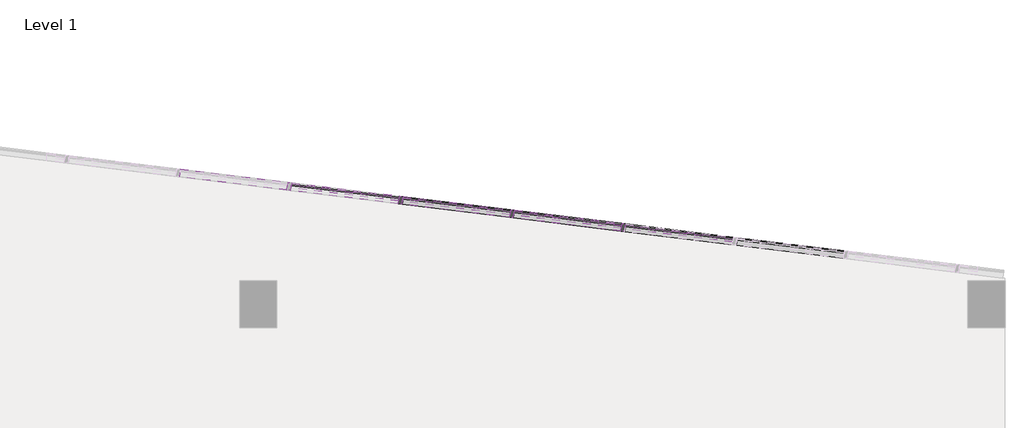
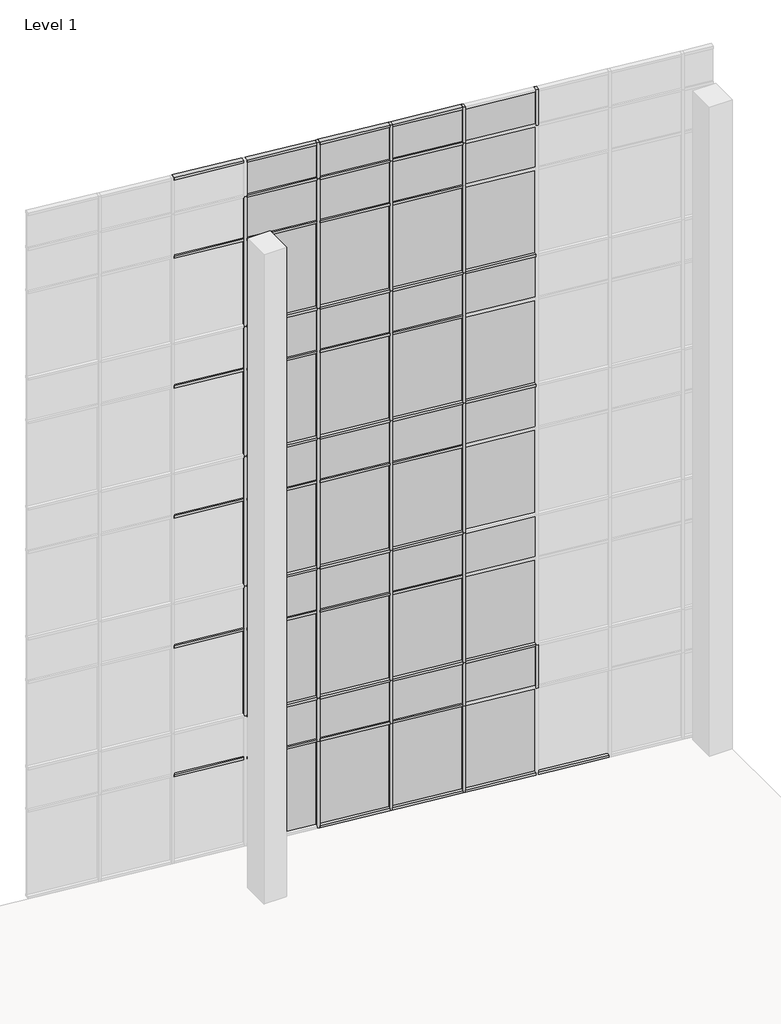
# One storey, part 21 of 23: 73 members, 44 plates.
"""IFC4 building model written with IfcOpenShell, lengths in millimetres."""

from ifc_helpers import new_model, si_unit, origin, place, context, project, spatial, transform, mapped, element, save
from components import member_2b49869a, member_f92b8aa2, member_810865a4, member_f0fea5a5, member_6d5c3e5e, member_9764dd38, system_panel_glazed_14c75400, system_panel_solid_5dfe6f83, system_panel_solid_e25e2004, system_panel_solid_b7551183

model = new_model("IFC4")

# Units and contexts
model_context = context("Model", 3, world=origin())
ifc_project = project(units=[si_unit("LENGTHUNIT", "METRE", prefix="MILLI")], contexts=[model_context])

# Site, building, storey
site = spatial("IfcSite", under=ifc_project)
building = spatial("IfcBuilding", under=site)
storey = spatial("IfcBuildingStorey", under=building, Name="Level 1", Elevation=0.0)

# Members
placement = place(None, origin())
member_shape = member_2b49869a(model_context)
element("IfcMember", 1, ObjectType="Rectangular Mullion : 2.5\" x 5\" rectangular", at=placement, inside=storey, context=model_context, shape_type="MappedRepresentation", body=[
    mapped(member_shape, transform((10636.016062, 10565.4226148, 2438.4), x_axis=(0.9925461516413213, -0.12186934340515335, 0.0), y_axis=(-0.12186934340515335, -0.9925461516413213, 0.0), z_axis=(0.0, 0.0, -1.0))),
])
element("IfcMember", 2, ObjectType="Rectangular Mullion : 2.5\" x 5\" rectangular", at=placement, inside=storey, context=model_context, shape_type="MappedRepresentation", body=[
    mapped(member_shape, transform((8820.8476599, 10788.29727, 2438.4), x_axis=(0.9925461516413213, -0.12186934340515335, 0.0), y_axis=(-0.12186934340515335, -0.9925461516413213, 0.0), z_axis=(0.0, 0.0, -1.0))),
])
element("IfcMember", 3, ObjectType="Rectangular Mullion : 2.5\" x 5\" rectangular", at=placement, inside=storey, context=model_context, shape_type="MappedRepresentation", body=[
    mapped(member_shape, transform((7005.6792577, 11011.1719252, 2438.4), x_axis=(0.9925461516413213, -0.12186934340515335, 0.0), y_axis=(-0.12186934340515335, -0.9925461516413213, 0.0), z_axis=(0.0, 0.0, -1.0))),
])
element("IfcMember", 4, ObjectType="Rectangular Mullion : 2.5\" x 5\" rectangular", at=placement, inside=storey, context=model_context, shape_type="MappedRepresentation", body=[
    mapped(member_shape, transform((5190.5108556, 11234.0465804, 2438.4), x_axis=(0.9925461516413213, -0.12186934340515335, 0.0), y_axis=(-0.12186934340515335, -0.9925461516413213, 0.0), z_axis=(0.0, 0.0, -1.0))),
])
member_2_shape = member_f92b8aa2(model_context)
element("IfcMember", 5, ObjectType="Rectangular Mullion : 2.5\" x 5\" rectangular", at=placement, inside=storey, context=model_context, shape_type="MappedRepresentation", body=[
    mapped(member_2_shape, transform((10636.016062, 10565.4226148, 18288.0), x_axis=(0.9925461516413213, -0.12186934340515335, 0.0), y_axis=(-0.12186934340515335, -0.9925461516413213, 0.0), z_axis=(0.0, 0.0, -1.0))),
])
element("IfcMember", 6, ObjectType="Rectangular Mullion : 2.5\" x 5\" rectangular", at=placement, inside=storey, context=model_context, shape_type="MappedRepresentation", body=[
    mapped(member_2_shape, transform((8820.8476599, 10788.29727, 18288.0), x_axis=(0.9925461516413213, -0.12186934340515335, 0.0), y_axis=(-0.12186934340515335, -0.9925461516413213, 0.0), z_axis=(0.0, 0.0, -1.0))),
])
element("IfcMember", 7, ObjectType="Rectangular Mullion : 2.5\" x 5\" rectangular", at=placement, inside=storey, context=model_context, shape_type="MappedRepresentation", body=[
    mapped(member_2_shape, transform((7005.6792577, 11011.1719252, 18288.0), x_axis=(0.9925461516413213, -0.12186934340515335, 0.0), y_axis=(-0.12186934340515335, -0.9925461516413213, 0.0), z_axis=(0.0, 0.0, -1.0))),
])
element("IfcMember", 8, ObjectType="Rectangular Mullion : 2.5\" x 5\" rectangular", at=placement, inside=storey, context=model_context, shape_type="MappedRepresentation", body=[
    mapped(member_2_shape, transform((5190.5108556, 11234.0465804, 18288.0), x_axis=(0.9925461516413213, -0.12186934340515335, 0.0), y_axis=(-0.12186934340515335, -0.9925461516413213, 0.0), z_axis=(0.0, 0.0, -1.0))),
])
member_3_shape = member_810865a4(model_context)
element("IfcMember", 9, ObjectType="Rectangular Mullion : 2.5\" x 5\" rectangular", at=placement, inside=storey, context=model_context, shape_type="MappedRepresentation", body=[
    mapped(member_3_shape, transform((8820.8476599, 10788.29727, 14630.4), x_axis=(0.9925461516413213, -0.12186934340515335, 0.0), y_axis=(-0.12186934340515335, -0.9925461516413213, 0.0), z_axis=(0.0, 0.0, -1.0))),
])
element("IfcMember", 10, ObjectType="Rectangular Mullion : 2.5\" x 5\" rectangular", at=placement, inside=storey, context=model_context, shape_type="MappedRepresentation", body=[
    mapped(member_3_shape, transform((8820.8476599, 10788.29727, 10972.8), x_axis=(0.9925461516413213, -0.12186934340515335, 0.0), y_axis=(-0.12186934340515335, -0.9925461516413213, 0.0), z_axis=(0.0, 0.0, -1.0))),
])
element("IfcMember", 11, ObjectType="Rectangular Mullion : 2.5\" x 5\" rectangular", at=placement, inside=storey, context=model_context, shape_type="MappedRepresentation", body=[
    mapped(member_3_shape, transform((8820.8476599, 10788.29727, 7315.2), x_axis=(0.9925461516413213, -0.12186934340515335, 0.0), y_axis=(-0.12186934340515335, -0.9925461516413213, 0.0), z_axis=(0.0, 0.0, -1.0))),
])
element("IfcMember", 12, ObjectType="Rectangular Mullion : 2.5\" x 5\" rectangular", at=placement, inside=storey, context=model_context, shape_type="MappedRepresentation", body=[
    mapped(member_3_shape, transform((8820.8476599, 10788.29727, 3657.6), x_axis=(0.9925461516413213, -0.12186934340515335, 0.0), y_axis=(-0.12186934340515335, -0.9925461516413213, 0.0), z_axis=(0.0, 0.0, -1.0))),
])
element("IfcMember", 13, ObjectType="Rectangular Mullion : 2.5\" x 5\" rectangular", at=placement, inside=storey, context=model_context, shape_type="MappedRepresentation", body=[
    mapped(member_3_shape, transform((7005.6792577, 11011.1719252, 14630.4), x_axis=(0.9925461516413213, -0.12186934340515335, 0.0), y_axis=(-0.12186934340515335, -0.9925461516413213, 0.0), z_axis=(0.0, 0.0, -1.0))),
])
element("IfcMember", 14, ObjectType="Rectangular Mullion : 2.5\" x 5\" rectangular", at=placement, inside=storey, context=model_context, shape_type="MappedRepresentation", body=[
    mapped(member_3_shape, transform((7005.6792577, 11011.1719252, 10972.8), x_axis=(0.9925461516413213, -0.12186934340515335, 0.0), y_axis=(-0.12186934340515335, -0.9925461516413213, 0.0), z_axis=(0.0, 0.0, -1.0))),
])
element("IfcMember", 15, ObjectType="Rectangular Mullion : 2.5\" x 5\" rectangular", at=placement, inside=storey, context=model_context, shape_type="MappedRepresentation", body=[
    mapped(member_3_shape, transform((7005.6792577, 11011.1719252, 7315.2), x_axis=(0.9925461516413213, -0.12186934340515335, 0.0), y_axis=(-0.12186934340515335, -0.9925461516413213, 0.0), z_axis=(0.0, 0.0, -1.0))),
])
element("IfcMember", 16, ObjectType="Rectangular Mullion : 2.5\" x 5\" rectangular", at=placement, inside=storey, context=model_context, shape_type="MappedRepresentation", body=[
    mapped(member_3_shape, transform((7005.6792577, 11011.1719252, 3657.6), x_axis=(0.9925461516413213, -0.12186934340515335, 0.0), y_axis=(-0.12186934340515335, -0.9925461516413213, 0.0), z_axis=(0.0, 0.0, -1.0))),
])
element("IfcMember", 17, ObjectType="Rectangular Mullion : 2.5\" x 5\" rectangular", at=placement, inside=storey, context=model_context, shape_type="MappedRepresentation", body=[
    mapped(member_3_shape, transform((5190.5108556, 11234.0465804, 14630.4), x_axis=(0.9925461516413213, -0.12186934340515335, 0.0), y_axis=(-0.12186934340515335, -0.9925461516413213, 0.0), z_axis=(0.0, 0.0, -1.0))),
])
element("IfcMember", 18, ObjectType="Rectangular Mullion : 2.5\" x 5\" rectangular", at=placement, inside=storey, context=model_context, shape_type="MappedRepresentation", body=[
    mapped(member_3_shape, transform((5190.5108556, 11234.0465804, 10972.8), x_axis=(0.9925461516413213, -0.12186934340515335, 0.0), y_axis=(-0.12186934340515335, -0.9925461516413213, 0.0), z_axis=(0.0, 0.0, -1.0))),
])
element("IfcMember", 19, ObjectType="Rectangular Mullion : 2.5\" x 5\" rectangular", at=placement, inside=storey, context=model_context, shape_type="MappedRepresentation", body=[
    mapped(member_3_shape, transform((5190.5108556, 11234.0465804, 7315.2), x_axis=(0.9925461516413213, -0.12186934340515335, 0.0), y_axis=(-0.12186934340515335, -0.9925461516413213, 0.0), z_axis=(0.0, 0.0, -1.0))),
])
element("IfcMember", 20, ObjectType="Rectangular Mullion : 2.5\" x 5\" rectangular", at=placement, inside=storey, context=model_context, shape_type="MappedRepresentation", body=[
    mapped(member_3_shape, transform((5190.5108556, 11234.0465804, 3657.6), x_axis=(0.9925461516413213, -0.12186934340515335, 0.0), y_axis=(-0.12186934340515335, -0.9925461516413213, 0.0), z_axis=(0.0, 0.0, -1.0))),
])
element("IfcMember", 21, ObjectType="Rectangular Mullion : 2.5\" x 5\" rectangular", at=placement, inside=storey, context=model_context, shape_type="MappedRepresentation", body=[
    mapped(member_3_shape, transform((3375.3424535, 11456.9212356, 14630.4), x_axis=(0.9925461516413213, -0.12186934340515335, 0.0), y_axis=(-0.12186934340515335, -0.9925461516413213, 0.0), z_axis=(0.0, 0.0, -1.0))),
])
element("IfcMember", 22, ObjectType="Rectangular Mullion : 2.5\" x 5\" rectangular", at=placement, inside=storey, context=model_context, shape_type="MappedRepresentation", body=[
    mapped(member_3_shape, transform((3375.3424535, 11456.9212356, 10972.8), x_axis=(0.9925461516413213, -0.12186934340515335, 0.0), y_axis=(-0.12186934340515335, -0.9925461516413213, 0.0), z_axis=(0.0, 0.0, -1.0))),
])
element("IfcMember", 23, ObjectType="Rectangular Mullion : 2.5\" x 5\" rectangular", at=placement, inside=storey, context=model_context, shape_type="MappedRepresentation", body=[
    mapped(member_3_shape, transform((3375.3424535, 11456.9212356, 7315.2), x_axis=(0.9925461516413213, -0.12186934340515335, 0.0), y_axis=(-0.12186934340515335, -0.9925461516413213, 0.0), z_axis=(0.0, 0.0, -1.0))),
])
element("IfcMember", 24, ObjectType="Rectangular Mullion : 2.5\" x 5\" rectangular", at=placement, inside=storey, context=model_context, shape_type="MappedRepresentation", body=[
    mapped(member_3_shape, transform((3375.3424535, 11456.9212356, 3657.6), x_axis=(0.9925461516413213, -0.12186934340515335, 0.0), y_axis=(-0.12186934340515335, -0.9925461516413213, 0.0), z_axis=(0.0, 0.0, -1.0))),
])
member_4_shape = member_f0fea5a5(model_context)
element("IfcMember", 25, ObjectType="Rectangular Mullion : 2.5\" x 5\" rectangular", at=placement, inside=storey, context=model_context, shape_type="MappedRepresentation", body=[
    mapped(member_4_shape, transform((8820.8476599, 10788.29727, 0.0), x_axis=(0.9925461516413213, -0.12186934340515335, 0.0), y_axis=(-0.12186934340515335, -0.9925461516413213, 0.0), z_axis=(0.0, 0.0, -1.0))),
])
element("IfcMember", 26, ObjectType="Rectangular Mullion : 2.5\" x 5\" rectangular", at=placement, inside=storey, context=model_context, shape_type="MappedRepresentation", body=[
    mapped(member_4_shape, transform((7005.6792577, 11011.1719252, 0.0), x_axis=(0.9925461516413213, -0.12186934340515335, 0.0), y_axis=(-0.12186934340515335, -0.9925461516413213, 0.0), z_axis=(0.0, 0.0, -1.0))),
])
element("IfcMember", 27, ObjectType="Rectangular Mullion : 2.5\" x 5\" rectangular", at=placement, inside=storey, context=model_context, shape_type="MappedRepresentation", body=[
    mapped(member_4_shape, transform((5190.5108556, 11234.0465804, 0.0), x_axis=(0.9925461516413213, -0.12186934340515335, 0.0), y_axis=(-0.12186934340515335, -0.9925461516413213, 0.0), z_axis=(0.0, 0.0, -1.0))),
])
member_5_shape = member_6d5c3e5e(model_context)
element("IfcMember", 28, ObjectType="Rectangular Mullion : 2.5\" x 5\" rectangular", at=placement, inside=storey, context=model_context, shape_type="MappedRepresentation", body=[
    mapped(member_5_shape, transform((8789.3343195, 10792.1666216, 19304.0), x_axis=(0.0, 0.0, 1.0), y_axis=(-0.12186934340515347, -0.9925461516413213, 0.0), z_axis=(0.9925461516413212, -0.12186934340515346, 0.0))),
])
element("IfcMember", 29, ObjectType="Rectangular Mullion : 2.5\" x 5\" rectangular", at=placement, inside=storey, context=model_context, shape_type="MappedRepresentation", body=[
    mapped(member_5_shape, transform((6974.1659174, 11015.0412769, 19304.0), x_axis=(0.0, 0.0, 1.0), y_axis=(-0.12186934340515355, -0.9925461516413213, 0.0), z_axis=(0.9925461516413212, -0.12186934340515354, 0.0))),
])
element("IfcMember", 30, ObjectType="Rectangular Mullion : 2.5\" x 5\" rectangular", at=placement, inside=storey, context=model_context, shape_type="MappedRepresentation", body=[
    mapped(member_5_shape, transform((5158.9975153, 11237.9159321, 19304.0), x_axis=(0.0, 0.0, 1.0), y_axis=(-0.12186934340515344, -0.9925461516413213, 0.0), z_axis=(0.9925461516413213, -0.12186934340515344, 0.0))),
])
element("IfcMember", 31, ObjectType="Rectangular Mullion : 2.5\" x 5\" rectangular", at=placement, inside=storey, context=model_context, shape_type="MappedRepresentation", body=[
    mapped(member_5_shape, transform((3343.8291132, 11460.7905873, 19304.0), x_axis=(0.0, 0.0, 1.0), y_axis=(-0.12186934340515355, -0.9925461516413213, 0.0), z_axis=(0.9925461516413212, -0.12186934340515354, 0.0))),
])
member_6_shape = member_9764dd38(model_context)
element("IfcMember", 32, ObjectType="Rectangular Mullion : 2.5\" x 5\" rectangular", at=placement, inside=storey, context=model_context, shape_type="MappedRepresentation", body=[
    mapped(member_6_shape, transform((8789.3343195, 10792.1666216, 17068.8), x_axis=(0.0, 0.0, 1.0), y_axis=(-0.12186934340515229, -0.9925461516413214, 0.0), z_axis=(0.9925461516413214, -0.12186934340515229, 0.0))),
])
element("IfcMember", 33, ObjectType="Rectangular Mullion : 2.5\" x 5\" rectangular", at=placement, inside=storey, context=model_context, shape_type="MappedRepresentation", body=[
    mapped(member_6_shape, transform((6974.1659174, 11015.0412769, 17068.8), x_axis=(0.0, 0.0, 1.0), y_axis=(-0.12186934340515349, -0.9925461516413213, 0.0), z_axis=(0.9925461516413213, -0.12186934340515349, 0.0))),
])
element("IfcMember", 34, ObjectType="Rectangular Mullion : 2.5\" x 5\" rectangular", at=placement, inside=storey, context=model_context, shape_type="MappedRepresentation", body=[
    mapped(member_6_shape, transform((5158.9975153, 11237.9159321, 17068.8), x_axis=(0.0, 0.0, 1.0), y_axis=(-0.1218693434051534, -0.9925461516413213, 0.0), z_axis=(0.9925461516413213, -0.1218693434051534, 0.0))),
])
element("IfcMember", 35, ObjectType="Rectangular Mullion : 2.5\" x 5\" rectangular", at=placement, inside=storey, context=model_context, shape_type="MappedRepresentation", body=[
    mapped(member_6_shape, transform((3343.8291132, 11460.7905873, 17068.8), x_axis=(0.0, 0.0, 1.0), y_axis=(-0.1218693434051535, -0.9925461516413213, 0.0), z_axis=(0.9925461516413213, -0.1218693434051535, 0.0))),
])
element("IfcMember", 36, ObjectType="Rectangular Mullion : 2.5\" x 5\" rectangular", at=placement, inside=storey, context=model_context, shape_type="MappedRepresentation", body=[
    mapped(member_6_shape, transform((8789.3343195, 10792.1666216, 13411.2), x_axis=(0.0, 0.0, 1.0), y_axis=(-0.12186934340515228, -0.9925461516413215, 0.0), z_axis=(0.9925461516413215, -0.12186934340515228, 0.0))),
])
element("IfcMember", 37, ObjectType="Rectangular Mullion : 2.5\" x 5\" rectangular", at=placement, inside=storey, context=model_context, shape_type="MappedRepresentation", body=[
    mapped(member_6_shape, transform((6974.1659174, 11015.0412769, 13411.2), x_axis=(0.0, 0.0, 1.0), y_axis=(-0.12186934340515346, -0.9925461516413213, 0.0), z_axis=(0.9925461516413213, -0.12186934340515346, 0.0))),
])
element("IfcMember", 38, ObjectType="Rectangular Mullion : 2.5\" x 5\" rectangular", at=placement, inside=storey, context=model_context, shape_type="MappedRepresentation", body=[
    mapped(member_6_shape, transform((5158.9975153, 11237.9159321, 13411.2), x_axis=(0.0, 0.0, 1.0), y_axis=(-0.1218693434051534, -0.9925461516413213, 0.0), z_axis=(0.9925461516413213, -0.1218693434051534, 0.0))),
])
element("IfcMember", 39, ObjectType="Rectangular Mullion : 2.5\" x 5\" rectangular", at=placement, inside=storey, context=model_context, shape_type="MappedRepresentation", body=[
    mapped(member_6_shape, transform((3343.8291132, 11460.7905873, 13411.2), x_axis=(0.0, 0.0, 1.0), y_axis=(-0.12186934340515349, -0.9925461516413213, 0.0), z_axis=(0.9925461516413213, -0.12186934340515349, 0.0))),
])
element("IfcMember", 40, ObjectType="Rectangular Mullion : 2.5\" x 5\" rectangular", at=placement, inside=storey, context=model_context, shape_type="MappedRepresentation", body=[
    mapped(member_6_shape, transform((8789.3343195, 10792.1666216, 9753.6), x_axis=(0.0, 0.0, 1.0), y_axis=(-0.12186934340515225, -0.9925461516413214, 0.0), z_axis=(0.9925461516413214, -0.12186934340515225, 0.0))),
])
element("IfcMember", 41, ObjectType="Rectangular Mullion : 2.5\" x 5\" rectangular", at=placement, inside=storey, context=model_context, shape_type="MappedRepresentation", body=[
    mapped(member_6_shape, transform((6974.1659174, 11015.0412769, 9753.6), x_axis=(0.0, 0.0, 1.0), y_axis=(-0.12186934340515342, -0.9925461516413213, 0.0), z_axis=(0.9925461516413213, -0.12186934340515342, 0.0))),
])
element("IfcMember", 42, ObjectType="Rectangular Mullion : 2.5\" x 5\" rectangular", at=placement, inside=storey, context=model_context, shape_type="MappedRepresentation", body=[
    mapped(member_6_shape, transform((5158.9975153, 11237.9159321, 9753.6), x_axis=(0.0, 0.0, 1.0), y_axis=(-0.12186934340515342, -0.9925461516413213, 0.0), z_axis=(0.9925461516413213, -0.12186934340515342, 0.0))),
])
element("IfcMember", 43, ObjectType="Rectangular Mullion : 2.5\" x 5\" rectangular", at=placement, inside=storey, context=model_context, shape_type="MappedRepresentation", body=[
    mapped(member_6_shape, transform((3343.8291132, 11460.7905873, 9753.6), x_axis=(0.0, 0.0, 1.0), y_axis=(-0.12186934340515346, -0.9925461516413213, 0.0), z_axis=(0.9925461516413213, -0.12186934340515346, 0.0))),
])
element("IfcMember", 44, ObjectType="Rectangular Mullion : 2.5\" x 5\" rectangular", at=placement, inside=storey, context=model_context, shape_type="MappedRepresentation", body=[
    mapped(member_6_shape, transform((8789.3343195, 10792.1666216, 6096.0), x_axis=(0.0, 0.0, 1.0), y_axis=(-0.12186934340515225, -0.9925461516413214, 0.0), z_axis=(0.9925461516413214, -0.12186934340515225, 0.0))),
])
element("IfcMember", 45, ObjectType="Rectangular Mullion : 2.5\" x 5\" rectangular", at=placement, inside=storey, context=model_context, shape_type="MappedRepresentation", body=[
    mapped(member_6_shape, transform((6974.1659174, 11015.0412769, 6096.0), x_axis=(0.0, 0.0, 1.0), y_axis=(-0.12186934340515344, -0.9925461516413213, 0.0), z_axis=(0.9925461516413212, -0.12186934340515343, 0.0))),
])
element("IfcMember", 46, ObjectType="Rectangular Mullion : 2.5\" x 5\" rectangular", at=placement, inside=storey, context=model_context, shape_type="MappedRepresentation", body=[
    mapped(member_6_shape, transform((5158.9975153, 11237.9159321, 6096.0), x_axis=(0.0, 0.0, 1.0), y_axis=(-0.12186934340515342, -0.9925461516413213, 0.0), z_axis=(0.9925461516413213, -0.12186934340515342, 0.0))),
])
element("IfcMember", 47, ObjectType="Rectangular Mullion : 2.5\" x 5\" rectangular", at=placement, inside=storey, context=model_context, shape_type="MappedRepresentation", body=[
    mapped(member_6_shape, transform((3343.8291132, 11460.7905873, 6096.0), x_axis=(0.0, 0.0, 1.0), y_axis=(-0.12186934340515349, -0.9925461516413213, 0.0), z_axis=(0.9925461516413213, -0.12186934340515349, 0.0))),
])
element("IfcMember", 48, ObjectType="Rectangular Mullion : 2.5\" x 5\" rectangular", at=placement, inside=storey, context=model_context, shape_type="MappedRepresentation", body=[
    mapped(member_6_shape, transform((8789.3343195, 10792.1666216, 2470.15), x_axis=(0.0, 0.0, 1.0), y_axis=(-0.12186934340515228, -0.9925461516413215, 0.0), z_axis=(0.9925461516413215, -0.12186934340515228, 0.0))),
])
element("IfcMember", 49, ObjectType="Rectangular Mullion : 2.5\" x 5\" rectangular", at=placement, inside=storey, context=model_context, shape_type="MappedRepresentation", body=[
    mapped(member_6_shape, transform((6974.1659174, 11015.0412769, 2470.15), x_axis=(0.0, 0.0, 1.0), y_axis=(-0.12186934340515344, -0.9925461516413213, 0.0), z_axis=(0.9925461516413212, -0.12186934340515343, 0.0))),
])
element("IfcMember", 50, ObjectType="Rectangular Mullion : 2.5\" x 5\" rectangular", at=placement, inside=storey, context=model_context, shape_type="MappedRepresentation", body=[
    mapped(member_6_shape, transform((5158.9975153, 11237.9159321, 2470.15), x_axis=(0.0, 0.0, 1.0), y_axis=(-0.12186934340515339, -0.9925461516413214, 0.0), z_axis=(0.9925461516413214, -0.12186934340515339, 0.0))),
])
element("IfcMember", 51, ObjectType="Rectangular Mullion : 2.5\" x 5\" rectangular", at=placement, inside=storey, context=model_context, shape_type="MappedRepresentation", body=[
    mapped(member_6_shape, transform((3343.8291132, 11460.7905873, 2470.15), x_axis=(0.0, 0.0, 1.0), y_axis=(-0.12186934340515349, -0.9925461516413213, 0.0), z_axis=(0.9925461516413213, -0.12186934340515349, 0.0))),
])
element("IfcMember", 52, ObjectType="Rectangular Mullion : 2.5\" x 5\" rectangular", at=placement, inside=storey, context=model_context, shape_type="MappedRepresentation", body=[
    mapped(member_5_shape, transform((10667.5294023, 10561.5532631, 0.0), x_axis=(0.0, 0.0, -1.0), y_axis=(-0.12186934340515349, -0.9925461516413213, 0.0), z_axis=(-0.9925461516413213, 0.12186934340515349, 0.0))),
])
element("IfcMember", 53, ObjectType="Rectangular Mullion : 2.5\" x 5\" rectangular", at=placement, inside=storey, context=model_context, shape_type="MappedRepresentation", body=[
    mapped(member_5_shape, transform((8852.3610002, 10784.4279183, 0.0), x_axis=(0.0, 0.0, -1.0), y_axis=(-0.12186934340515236, -0.9925461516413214, 0.0), z_axis=(-0.9925461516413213, 0.12186934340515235, 0.0))),
])
element("IfcMember", 54, ObjectType="Rectangular Mullion : 2.5\" x 5\" rectangular", at=placement, inside=storey, context=model_context, shape_type="MappedRepresentation", body=[
    mapped(member_5_shape, transform((7037.1925981, 11007.3025736, 0.0), x_axis=(0.0, 0.0, -1.0), y_axis=(-0.12186934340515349, -0.9925461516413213, 0.0), z_axis=(-0.9925461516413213, 0.12186934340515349, 0.0))),
])
element("IfcMember", 55, ObjectType="Rectangular Mullion : 2.5\" x 5\" rectangular", at=placement, inside=storey, context=model_context, shape_type="MappedRepresentation", body=[
    mapped(member_5_shape, transform((5222.0241959, 11230.1772288, 0.0), x_axis=(0.0, 0.0, -1.0), y_axis=(-0.12186934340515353, -0.9925461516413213, 0.0), z_axis=(-0.9925461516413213, 0.12186934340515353, 0.0))),
])
element("IfcMember", 56, ObjectType="Rectangular Mullion : 2.5\" x 5\" rectangular", at=placement, inside=storey, context=model_context, shape_type="MappedRepresentation", body=[
    mapped(member_6_shape, transform((6974.1659174, 11015.0412769, 3657.6), x_axis=(0.0, 0.0, 1.0), y_axis=(-0.12186934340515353, -0.9925461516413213, 0.0), z_axis=(0.9925461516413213, -0.12186934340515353, 0.0))),
])
element("IfcMember", 57, ObjectType="Rectangular Mullion : 2.5\" x 5\" rectangular", at=placement, inside=storey, context=model_context, shape_type="MappedRepresentation", body=[
    mapped(member_6_shape, transform((5158.9975153, 11237.9159321, 3657.6), x_axis=(0.0, 0.0, 1.0), y_axis=(-0.12186934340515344, -0.9925461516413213, 0.0), z_axis=(0.9925461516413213, -0.12186934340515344, 0.0))),
])
element("IfcMember", 58, ObjectType="Rectangular Mullion : 2.5\" x 5\" rectangular", at=placement, inside=storey, context=model_context, shape_type="MappedRepresentation", body=[
    mapped(member_6_shape, transform((10604.5027217, 10569.2919664, 10972.8), x_axis=(0.0, 0.0, 1.0), y_axis=(-0.12186934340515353, -0.9925461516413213, 0.0), z_axis=(0.9925461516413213, -0.12186934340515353, 0.0))),
])
element("IfcMember", 59, ObjectType="Rectangular Mullion : 2.5\" x 5\" rectangular", at=placement, inside=storey, context=model_context, shape_type="MappedRepresentation", body=[
    mapped(member_6_shape, transform((8789.3343195, 10792.1666216, 10972.8), x_axis=(0.0, 0.0, 1.0), y_axis=(-0.12186934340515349, -0.9925461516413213, 0.0), z_axis=(0.9925461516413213, -0.12186934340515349, 0.0))),
])
element("IfcMember", 60, ObjectType="Rectangular Mullion : 2.5\" x 5\" rectangular", at=placement, inside=storey, context=model_context, shape_type="MappedRepresentation", body=[
    mapped(member_6_shape, transform((6974.1659174, 11015.0412769, 10972.8), x_axis=(0.0, 0.0, 1.0), y_axis=(-0.12186934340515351, -0.9925461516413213, 0.0), z_axis=(0.9925461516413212, -0.1218693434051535, 0.0))),
])
element("IfcMember", 61, ObjectType="Rectangular Mullion : 2.5\" x 5\" rectangular", at=placement, inside=storey, context=model_context, shape_type="MappedRepresentation", body=[
    mapped(member_6_shape, transform((5158.9975153, 11237.9159321, 10972.8), x_axis=(0.0, 0.0, 1.0), y_axis=(-0.12186934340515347, -0.9925461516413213, 0.0), z_axis=(0.9925461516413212, -0.12186934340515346, 0.0))),
])
element("IfcMember", 62, ObjectType="Rectangular Mullion : 2.5\" x 5\" rectangular", at=placement, inside=storey, context=model_context, shape_type="MappedRepresentation", body=[
    mapped(member_6_shape, transform((10604.5027217, 10569.2919664, 3657.6), x_axis=(0.0, 0.0, 1.0), y_axis=(-0.12186934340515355, -0.9925461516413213, 0.0), z_axis=(0.9925461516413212, -0.12186934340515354, 0.0))),
])
element("IfcMember", 63, ObjectType="Rectangular Mullion : 2.5\" x 5\" rectangular", at=placement, inside=storey, context=model_context, shape_type="MappedRepresentation", body=[
    mapped(member_6_shape, transform((8789.3343195, 10792.1666216, 3657.6), x_axis=(0.0, 0.0, 1.0), y_axis=(-0.12186934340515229, -0.9925461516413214, 0.0), z_axis=(0.9925461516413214, -0.12186934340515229, 0.0))),
])
element("IfcMember", 64, ObjectType="Rectangular Mullion : 2.5\" x 5\" rectangular", at=placement, inside=storey, context=model_context, shape_type="MappedRepresentation", body=[
    mapped(member_6_shape, transform((10604.5027217, 10569.2919664, 14630.4), x_axis=(0.0, 0.0, 1.0), y_axis=(-0.12186934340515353, -0.9925461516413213, 0.0), z_axis=(0.9925461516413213, -0.12186934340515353, 0.0))),
])
element("IfcMember", 65, ObjectType="Rectangular Mullion : 2.5\" x 5\" rectangular", at=placement, inside=storey, context=model_context, shape_type="MappedRepresentation", body=[
    mapped(member_6_shape, transform((8789.3343195, 10792.1666216, 14630.4), x_axis=(0.0, 0.0, 1.0), y_axis=(-0.12186934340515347, -0.9925461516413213, 0.0), z_axis=(0.9925461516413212, -0.12186934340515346, 0.0))),
])
element("IfcMember", 66, ObjectType="Rectangular Mullion : 2.5\" x 5\" rectangular", at=placement, inside=storey, context=model_context, shape_type="MappedRepresentation", body=[
    mapped(member_6_shape, transform((6974.1659174, 11015.0412769, 14630.4), x_axis=(0.0, 0.0, 1.0), y_axis=(-0.12186934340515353, -0.9925461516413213, 0.0), z_axis=(0.9925461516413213, -0.12186934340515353, 0.0))),
])
element("IfcMember", 67, ObjectType="Rectangular Mullion : 2.5\" x 5\" rectangular", at=placement, inside=storey, context=model_context, shape_type="MappedRepresentation", body=[
    mapped(member_6_shape, transform((5158.9975153, 11237.9159321, 14630.4), x_axis=(0.0, 0.0, 1.0), y_axis=(-0.12186934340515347, -0.9925461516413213, 0.0), z_axis=(0.9925461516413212, -0.12186934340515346, 0.0))),
])
element("IfcMember", 68, ObjectType="Rectangular Mullion : 2.5\" x 5\" rectangular", at=placement, inside=storey, context=model_context, shape_type="MappedRepresentation", body=[
    mapped(member_6_shape, transform((8789.3343195, 10792.1666216, 7315.2), x_axis=(0.0, 0.0, 1.0), y_axis=(-0.12186934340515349, -0.9925461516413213, 0.0), z_axis=(0.9925461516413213, -0.12186934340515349, 0.0))),
])
element("IfcMember", 69, ObjectType="Rectangular Mullion : 2.5\" x 5\" rectangular", at=placement, inside=storey, context=model_context, shape_type="MappedRepresentation", body=[
    mapped(member_6_shape, transform((6974.1659174, 11015.0412769, 7315.2), x_axis=(0.0, 0.0, 1.0), y_axis=(-0.12186934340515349, -0.9925461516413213, 0.0), z_axis=(0.9925461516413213, -0.12186934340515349, 0.0))),
])
element("IfcMember", 70, ObjectType="Rectangular Mullion : 2.5\" x 5\" rectangular", at=placement, inside=storey, context=model_context, shape_type="MappedRepresentation", body=[
    mapped(member_6_shape, transform((5158.9975153, 11237.9159321, 7315.2), x_axis=(0.0, 0.0, 1.0), y_axis=(-0.12186934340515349, -0.9925461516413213, 0.0), z_axis=(0.9925461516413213, -0.12186934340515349, 0.0))),
])
element("IfcMember", 71, ObjectType="Rectangular Mullion : 2.5\" x 5\" rectangular", at=placement, inside=storey, context=model_context, shape_type="MappedRepresentation", body=[
    mapped(member_6_shape, transform((8789.3343195, 10792.1666216, 18288.0), x_axis=(0.0, 0.0, 1.0), y_axis=(-0.12186934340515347, -0.9925461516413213, 0.0), z_axis=(0.9925461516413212, -0.12186934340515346, 0.0))),
])
element("IfcMember", 72, ObjectType="Rectangular Mullion : 2.5\" x 5\" rectangular", at=placement, inside=storey, context=model_context, shape_type="MappedRepresentation", body=[
    mapped(member_6_shape, transform((6974.1659174, 11015.0412769, 18288.0), x_axis=(0.0, 0.0, 1.0), y_axis=(-0.12186934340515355, -0.9925461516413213, 0.0), z_axis=(0.9925461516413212, -0.12186934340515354, 0.0))),
])
element("IfcMember", 73, ObjectType="Rectangular Mullion : 2.5\" x 5\" rectangular", at=placement, inside=storey, context=model_context, shape_type="MappedRepresentation", body=[
    mapped(member_6_shape, transform((5158.9975153, 11237.9159321, 18288.0), x_axis=(0.0, 0.0, 1.0), y_axis=(-0.12186934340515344, -0.9925461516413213, 0.0), z_axis=(0.9925461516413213, -0.12186934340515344, 0.0))),
])

# Plates
system_panel_glazed_shape = system_panel_glazed_14c75400(model_context)
element("IfcPlate", 74, ObjectType="System Panel : Glazed", at=placement, inside=storey, context=model_context, shape_type="MappedRepresentation", body=[
    mapped(system_panel_glazed_shape, transform((9728.4318609, 10676.8599424, 14662.15), x_axis=(0.9925461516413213, -0.12186934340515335, 0.0), y_axis=(0.12186934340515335, 0.9925461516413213, 0.0), z_axis=(0.0, 0.0, 1.0))),
])
element("IfcPlate", 75, ObjectType="System Panel : Glazed", at=placement, inside=storey, context=model_context, shape_type="MappedRepresentation", body=[
    mapped(system_panel_glazed_shape, transform((7913.2634588, 10899.7345976, 14662.15), x_axis=(0.9925461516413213, -0.12186934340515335, 0.0), y_axis=(0.12186934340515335, 0.9925461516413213, 0.0), z_axis=(0.0, 0.0, 1.0))),
])
element("IfcPlate", 76, ObjectType="System Panel : Glazed", at=placement, inside=storey, context=model_context, shape_type="MappedRepresentation", body=[
    mapped(system_panel_glazed_shape, transform((6098.0950567, 11122.6092528, 14662.15), x_axis=(0.9925461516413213, -0.12186934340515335, 0.0), y_axis=(0.12186934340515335, 0.9925461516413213, 0.0), z_axis=(0.0, 0.0, 1.0))),
])
element("IfcPlate", 77, ObjectType="System Panel : Glazed", at=placement, inside=storey, context=model_context, shape_type="MappedRepresentation", body=[
    mapped(system_panel_glazed_shape, transform((4282.9266546, 11345.483908, 14662.15), x_axis=(0.9925461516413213, -0.12186934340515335, 0.0), y_axis=(0.12186934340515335, 0.9925461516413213, 0.0), z_axis=(0.0, 0.0, 1.0))),
])
element("IfcPlate", 78, ObjectType="System Panel : Glazed", at=placement, inside=storey, context=model_context, shape_type="MappedRepresentation", body=[
    mapped(system_panel_glazed_shape, transform((9728.4318609, 10676.8599424, 11004.55), x_axis=(0.9925461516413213, -0.12186934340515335, 0.0), y_axis=(0.12186934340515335, 0.9925461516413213, 0.0), z_axis=(0.0, 0.0, 1.0))),
])
element("IfcPlate", 79, ObjectType="System Panel : Glazed", at=placement, inside=storey, context=model_context, shape_type="MappedRepresentation", body=[
    mapped(system_panel_glazed_shape, transform((7913.2634588, 10899.7345976, 11004.55), x_axis=(0.9925461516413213, -0.12186934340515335, 0.0), y_axis=(0.12186934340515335, 0.9925461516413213, 0.0), z_axis=(0.0, 0.0, 1.0))),
])
element("IfcPlate", 80, ObjectType="System Panel : Glazed", at=placement, inside=storey, context=model_context, shape_type="MappedRepresentation", body=[
    mapped(system_panel_glazed_shape, transform((6098.0950567, 11122.6092528, 11004.55), x_axis=(0.9925461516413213, -0.12186934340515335, 0.0), y_axis=(0.12186934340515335, 0.9925461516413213, 0.0), z_axis=(0.0, 0.0, 1.0))),
])
element("IfcPlate", 81, ObjectType="System Panel : Glazed", at=placement, inside=storey, context=model_context, shape_type="MappedRepresentation", body=[
    mapped(system_panel_glazed_shape, transform((4282.9266546, 11345.483908, 11004.55), x_axis=(0.9925461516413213, -0.12186934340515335, 0.0), y_axis=(0.12186934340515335, 0.9925461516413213, 0.0), z_axis=(0.0, 0.0, 1.0))),
])
element("IfcPlate", 82, ObjectType="System Panel : Glazed", at=placement, inside=storey, context=model_context, shape_type="MappedRepresentation", body=[
    mapped(system_panel_glazed_shape, transform((9728.4318609, 10676.8599424, 7346.95), x_axis=(0.9925461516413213, -0.12186934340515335, 0.0), y_axis=(0.12186934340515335, 0.9925461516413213, 0.0), z_axis=(0.0, 0.0, 1.0))),
])
element("IfcPlate", 83, ObjectType="System Panel : Glazed", at=placement, inside=storey, context=model_context, shape_type="MappedRepresentation", body=[
    mapped(system_panel_glazed_shape, transform((7913.2634588, 10899.7345976, 7346.95), x_axis=(0.9925461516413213, -0.12186934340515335, 0.0), y_axis=(0.12186934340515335, 0.9925461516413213, 0.0), z_axis=(0.0, 0.0, 1.0))),
])
element("IfcPlate", 84, ObjectType="System Panel : Glazed", at=placement, inside=storey, context=model_context, shape_type="MappedRepresentation", body=[
    mapped(system_panel_glazed_shape, transform((6098.0950567, 11122.6092528, 7346.95), x_axis=(0.9925461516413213, -0.12186934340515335, 0.0), y_axis=(0.12186934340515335, 0.9925461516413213, 0.0), z_axis=(0.0, 0.0, 1.0))),
])
element("IfcPlate", 85, ObjectType="System Panel : Glazed", at=placement, inside=storey, context=model_context, shape_type="MappedRepresentation", body=[
    mapped(system_panel_glazed_shape, transform((4282.9266546, 11345.483908, 7346.95), x_axis=(0.9925461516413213, -0.12186934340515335, 0.0), y_axis=(0.12186934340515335, 0.9925461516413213, 0.0), z_axis=(0.0, 0.0, 1.0))),
])
element("IfcPlate", 86, ObjectType="System Panel : Glazed", at=placement, inside=storey, context=model_context, shape_type="MappedRepresentation", body=[
    mapped(system_panel_glazed_shape, transform((9728.4318609, 10676.8599424, 3689.35), x_axis=(0.9925461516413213, -0.12186934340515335, 0.0), y_axis=(0.12186934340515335, 0.9925461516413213, 0.0), z_axis=(0.0, 0.0, 1.0))),
])
element("IfcPlate", 87, ObjectType="System Panel : Glazed", at=placement, inside=storey, context=model_context, shape_type="MappedRepresentation", body=[
    mapped(system_panel_glazed_shape, transform((7913.2634588, 10899.7345976, 3689.35), x_axis=(0.9925461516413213, -0.12186934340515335, 0.0), y_axis=(0.12186934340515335, 0.9925461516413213, 0.0), z_axis=(0.0, 0.0, 1.0))),
])
element("IfcPlate", 88, ObjectType="System Panel : Glazed", at=placement, inside=storey, context=model_context, shape_type="MappedRepresentation", body=[
    mapped(system_panel_glazed_shape, transform((6098.0950567, 11122.6092528, 3689.35), x_axis=(0.9925461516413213, -0.12186934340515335, 0.0), y_axis=(0.12186934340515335, 0.9925461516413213, 0.0), z_axis=(0.0, 0.0, 1.0))),
])
element("IfcPlate", 89, ObjectType="System Panel : Glazed", at=placement, inside=storey, context=model_context, shape_type="MappedRepresentation", body=[
    mapped(system_panel_glazed_shape, transform((4282.9266546, 11345.483908, 3689.35), x_axis=(0.9925461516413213, -0.12186934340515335, 0.0), y_axis=(0.12186934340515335, 0.9925461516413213, 0.0), z_axis=(0.0, 0.0, 1.0))),
])
element("IfcPlate", 90, ObjectType="System Panel : Glazed", at=placement, inside=storey, context=model_context, shape_type="MappedRepresentation", body=[
    mapped(system_panel_glazed_shape, transform((9728.4318609, 10676.8599424, 63.5), x_axis=(0.9925461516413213, -0.12186934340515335, 0.0), y_axis=(0.12186934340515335, 0.9925461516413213, 0.0), z_axis=(0.0, 0.0, 1.0))),
])
element("IfcPlate", 91, ObjectType="System Panel : Glazed", at=placement, inside=storey, context=model_context, shape_type="MappedRepresentation", body=[
    mapped(system_panel_glazed_shape, transform((7913.2634588, 10899.7345976, 63.5), x_axis=(0.9925461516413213, -0.12186934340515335, 0.0), y_axis=(0.12186934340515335, 0.9925461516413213, 0.0), z_axis=(0.0, 0.0, 1.0))),
])
element("IfcPlate", 92, ObjectType="System Panel : Glazed", at=placement, inside=storey, context=model_context, shape_type="MappedRepresentation", body=[
    mapped(system_panel_glazed_shape, transform((6098.0950567, 11122.6092528, 63.5), x_axis=(0.9925461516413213, -0.12186934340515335, 0.0), y_axis=(0.12186934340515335, 0.9925461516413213, 0.0), z_axis=(0.0, 0.0, 1.0))),
])
element("IfcPlate", 93, ObjectType="System Panel : Glazed", at=placement, inside=storey, context=model_context, shape_type="MappedRepresentation", body=[
    mapped(system_panel_glazed_shape, transform((4282.9266546, 11345.483908, 63.5), x_axis=(0.9925461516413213, -0.12186934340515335, 0.0), y_axis=(0.12186934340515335, 0.9925461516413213, 0.0), z_axis=(0.0, 0.0, 1.0))),
])
system_panel_solid_shape = system_panel_solid_5dfe6f83(model_context)
element("IfcPlate", 94, ObjectType="System Panel : Solid", at=placement, inside=storey, context=model_context, shape_type="MappedRepresentation", body=[
    mapped(system_panel_solid_shape, transform((4282.9266546, 11345.483908, 18319.75), x_axis=(0.9925461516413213, -0.12186934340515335, 0.0), y_axis=(0.12186934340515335, 0.9925461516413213, 0.0), z_axis=(0.0, 0.0, 1.0))),
])
element("IfcPlate", 95, ObjectType="System Panel : Solid", at=placement, inside=storey, context=model_context, shape_type="MappedRepresentation", body=[
    mapped(system_panel_solid_shape, transform((6098.0950567, 11122.6092528, 18319.75), x_axis=(0.9925461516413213, -0.12186934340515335, 0.0), y_axis=(0.12186934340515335, 0.9925461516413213, 0.0), z_axis=(0.0, 0.0, 1.0))),
])
element("IfcPlate", 96, ObjectType="System Panel : Solid", at=placement, inside=storey, context=model_context, shape_type="MappedRepresentation", body=[
    mapped(system_panel_solid_shape, transform((7913.2634588, 10899.7345976, 18319.75), x_axis=(0.9925461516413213, -0.12186934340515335, 0.0), y_axis=(0.12186934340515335, 0.9925461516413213, 0.0), z_axis=(0.0, 0.0, 1.0))),
])
element("IfcPlate", 97, ObjectType="System Panel : Solid", at=placement, inside=storey, context=model_context, shape_type="MappedRepresentation", body=[
    mapped(system_panel_solid_shape, transform((9728.4318609, 10676.8599424, 18319.75), x_axis=(0.9925461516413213, -0.12186934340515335, 0.0), y_axis=(0.12186934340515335, 0.9925461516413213, 0.0), z_axis=(0.0, 0.0, 1.0))),
])
system_panel_solid_2_shape = system_panel_solid_e25e2004(model_context)
element("IfcPlate", 98, ObjectType="System Panel : Solid", at=placement, inside=storey, context=model_context, shape_type="MappedRepresentation", body=[
    mapped(system_panel_solid_2_shape, transform((9728.4318609, 10676.8599424, 17100.55), x_axis=(0.9925461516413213, -0.12186934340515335, 0.0), y_axis=(0.12186934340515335, 0.9925461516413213, 0.0), z_axis=(0.0, 0.0, 1.0))),
])
element("IfcPlate", 99, ObjectType="System Panel : Solid", at=placement, inside=storey, context=model_context, shape_type="MappedRepresentation", body=[
    mapped(system_panel_solid_2_shape, transform((7913.2634588, 10899.7345976, 17100.55), x_axis=(0.9925461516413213, -0.12186934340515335, 0.0), y_axis=(0.12186934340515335, 0.9925461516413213, 0.0), z_axis=(0.0, 0.0, 1.0))),
])
element("IfcPlate", 100, ObjectType="System Panel : Solid", at=placement, inside=storey, context=model_context, shape_type="MappedRepresentation", body=[
    mapped(system_panel_solid_2_shape, transform((6098.0950567, 11122.6092528, 17100.55), x_axis=(0.9925461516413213, -0.12186934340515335, 0.0), y_axis=(0.12186934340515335, 0.9925461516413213, 0.0), z_axis=(0.0, 0.0, 1.0))),
])
element("IfcPlate", 101, ObjectType="System Panel : Solid", at=placement, inside=storey, context=model_context, shape_type="MappedRepresentation", body=[
    mapped(system_panel_solid_2_shape, transform((4282.9266546, 11345.483908, 17100.55), x_axis=(0.9925461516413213, -0.12186934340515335, 0.0), y_axis=(0.12186934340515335, 0.9925461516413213, 0.0), z_axis=(0.0, 0.0, 1.0))),
])
element("IfcPlate", 102, ObjectType="System Panel : Solid", at=placement, inside=storey, context=model_context, shape_type="MappedRepresentation", body=[
    mapped(system_panel_solid_2_shape, transform((9728.4318609, 10676.8599424, 13442.95), x_axis=(0.9925461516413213, -0.12186934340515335, 0.0), y_axis=(0.12186934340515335, 0.9925461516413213, 0.0), z_axis=(0.0, 0.0, 1.0))),
])
element("IfcPlate", 103, ObjectType="System Panel : Solid", at=placement, inside=storey, context=model_context, shape_type="MappedRepresentation", body=[
    mapped(system_panel_solid_2_shape, transform((7913.2634588, 10899.7345976, 13442.95), x_axis=(0.9925461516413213, -0.12186934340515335, 0.0), y_axis=(0.12186934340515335, 0.9925461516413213, 0.0), z_axis=(0.0, 0.0, 1.0))),
])
element("IfcPlate", 104, ObjectType="System Panel : Solid", at=placement, inside=storey, context=model_context, shape_type="MappedRepresentation", body=[
    mapped(system_panel_solid_2_shape, transform((6098.0950567, 11122.6092528, 13442.95), x_axis=(0.9925461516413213, -0.12186934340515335, 0.0), y_axis=(0.12186934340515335, 0.9925461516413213, 0.0), z_axis=(0.0, 0.0, 1.0))),
])
element("IfcPlate", 105, ObjectType="System Panel : Solid", at=placement, inside=storey, context=model_context, shape_type="MappedRepresentation", body=[
    mapped(system_panel_solid_2_shape, transform((4282.9266546, 11345.483908, 13442.95), x_axis=(0.9925461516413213, -0.12186934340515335, 0.0), y_axis=(0.12186934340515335, 0.9925461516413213, 0.0), z_axis=(0.0, 0.0, 1.0))),
])
element("IfcPlate", 106, ObjectType="System Panel : Solid", at=placement, inside=storey, context=model_context, shape_type="MappedRepresentation", body=[
    mapped(system_panel_solid_2_shape, transform((9728.4318609, 10676.8599424, 9785.35), x_axis=(0.9925461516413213, -0.12186934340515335, 0.0), y_axis=(0.12186934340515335, 0.9925461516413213, 0.0), z_axis=(0.0, 0.0, 1.0))),
])
element("IfcPlate", 107, ObjectType="System Panel : Solid", at=placement, inside=storey, context=model_context, shape_type="MappedRepresentation", body=[
    mapped(system_panel_solid_2_shape, transform((7913.2634588, 10899.7345976, 9785.35), x_axis=(0.9925461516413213, -0.12186934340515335, 0.0), y_axis=(0.12186934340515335, 0.9925461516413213, 0.0), z_axis=(0.0, 0.0, 1.0))),
])
element("IfcPlate", 108, ObjectType="System Panel : Solid", at=placement, inside=storey, context=model_context, shape_type="MappedRepresentation", body=[
    mapped(system_panel_solid_2_shape, transform((6098.0950567, 11122.6092528, 9785.35), x_axis=(0.9925461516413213, -0.12186934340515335, 0.0), y_axis=(0.12186934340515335, 0.9925461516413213, 0.0), z_axis=(0.0, 0.0, 1.0))),
])
element("IfcPlate", 109, ObjectType="System Panel : Solid", at=placement, inside=storey, context=model_context, shape_type="MappedRepresentation", body=[
    mapped(system_panel_solid_2_shape, transform((4282.9266546, 11345.483908, 9785.35), x_axis=(0.9925461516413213, -0.12186934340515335, 0.0), y_axis=(0.12186934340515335, 0.9925461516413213, 0.0), z_axis=(0.0, 0.0, 1.0))),
])
element("IfcPlate", 110, ObjectType="System Panel : Solid", at=placement, inside=storey, context=model_context, shape_type="MappedRepresentation", body=[
    mapped(system_panel_solid_2_shape, transform((9728.4318609, 10676.8599424, 6127.75), x_axis=(0.9925461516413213, -0.12186934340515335, 0.0), y_axis=(0.12186934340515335, 0.9925461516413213, 0.0), z_axis=(0.0, 0.0, 1.0))),
])
element("IfcPlate", 111, ObjectType="System Panel : Solid", at=placement, inside=storey, context=model_context, shape_type="MappedRepresentation", body=[
    mapped(system_panel_solid_2_shape, transform((7913.2634588, 10899.7345976, 6127.75), x_axis=(0.9925461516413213, -0.12186934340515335, 0.0), y_axis=(0.12186934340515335, 0.9925461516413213, 0.0), z_axis=(0.0, 0.0, 1.0))),
])
element("IfcPlate", 112, ObjectType="System Panel : Solid", at=placement, inside=storey, context=model_context, shape_type="MappedRepresentation", body=[
    mapped(system_panel_solid_2_shape, transform((6098.0950567, 11122.6092528, 6127.75), x_axis=(0.9925461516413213, -0.12186934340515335, 0.0), y_axis=(0.12186934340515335, 0.9925461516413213, 0.0), z_axis=(0.0, 0.0, 1.0))),
])
element("IfcPlate", 113, ObjectType="System Panel : Solid", at=placement, inside=storey, context=model_context, shape_type="MappedRepresentation", body=[
    mapped(system_panel_solid_2_shape, transform((4282.9266546, 11345.483908, 6127.75), x_axis=(0.9925461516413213, -0.12186934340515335, 0.0), y_axis=(0.12186934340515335, 0.9925461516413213, 0.0), z_axis=(0.0, 0.0, 1.0))),
])
system_panel_solid_3_shape = system_panel_solid_b7551183(model_context)
element("IfcPlate", 114, ObjectType="System Panel : Solid", at=placement, inside=storey, context=model_context, shape_type="MappedRepresentation", body=[
    mapped(system_panel_solid_3_shape, transform((9728.4318609, 10676.8599424, 2501.9), x_axis=(0.9925461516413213, -0.12186934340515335, 0.0), y_axis=(0.12186934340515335, 0.9925461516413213, 0.0), z_axis=(0.0, 0.0, 1.0))),
])
element("IfcPlate", 115, ObjectType="System Panel : Solid", at=placement, inside=storey, context=model_context, shape_type="MappedRepresentation", body=[
    mapped(system_panel_solid_3_shape, transform((7913.2634588, 10899.7345976, 2501.9), x_axis=(0.9925461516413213, -0.12186934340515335, 0.0), y_axis=(0.12186934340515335, 0.9925461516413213, 0.0), z_axis=(0.0, 0.0, 1.0))),
])
element("IfcPlate", 116, ObjectType="System Panel : Solid", at=placement, inside=storey, context=model_context, shape_type="MappedRepresentation", body=[
    mapped(system_panel_solid_3_shape, transform((6098.0950567, 11122.6092528, 2501.9), x_axis=(0.9925461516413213, -0.12186934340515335, 0.0), y_axis=(0.12186934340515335, 0.9925461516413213, 0.0), z_axis=(0.0, 0.0, 1.0))),
])
element("IfcPlate", 117, ObjectType="System Panel : Solid", at=placement, inside=storey, context=model_context, shape_type="MappedRepresentation", body=[
    mapped(system_panel_solid_3_shape, transform((4282.9266546, 11345.483908, 2501.9), x_axis=(0.9925461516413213, -0.12186934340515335, 0.0), y_axis=(0.12186934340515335, 0.9925461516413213, 0.0), z_axis=(0.0, 0.0, 1.0))),
])

save(model, "model.ifc")
